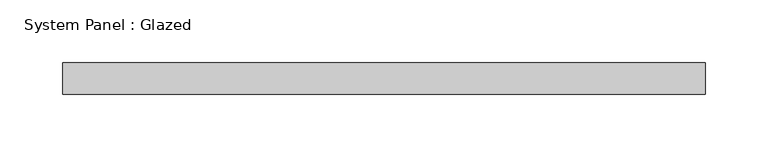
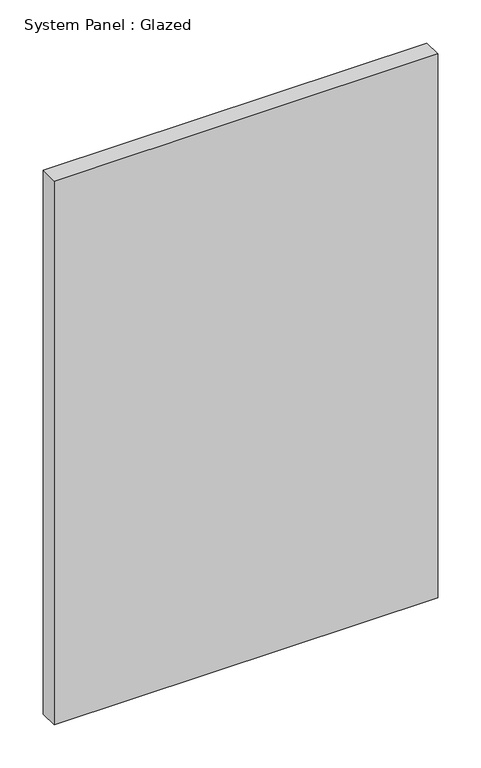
"""IFC4 building model written with IfcOpenShell, lengths in millimetres: plate geometry, System Panel : Glazed."""

from ifc_helpers import new_model, si_unit, origin, origin_with_axes, place, context, project, spatial, polyline, outline, extrude, source, transform, mapped, element, save


def system_panel_glazed_5a01df9a(model_context):
    return source(origin(), model_context, "Body", "SweptSolid", [
        extrude(outline(polyline([(257.175, 19.05), (-257.175, 19.05), (-257.175, 44.45), (257.175, 44.45), (257.175, 19.05)])), origin_with_axes(), (0.0, 0.0, 1.0), 770.6690025),
    ])


if __name__ == "__main__":
    model = new_model("IFC4")
    model_context = context("Model", 3, world=origin())
    ifc_project = project(units=[si_unit("LENGTHUNIT", "METRE", prefix="MILLI")], contexts=[model_context])
    site = spatial("IfcSite", under=ifc_project)
    building = spatial("IfcBuilding", under=site)
    placement = place(None, origin())
    system_panel_glazed_shape = system_panel_glazed_5a01df9a(model_context)
    element("IfcPlate", 1, ObjectType="System Panel : Glazed", at=placement, inside=building, context=model_context, shape_type="MappedRepresentation", body=[
        mapped(system_panel_glazed_shape, transform((0.0, 0.0, 0.0), x_axis=(1.0, 0.0, 0.0), y_axis=(0.0, 1.0, 0.0), z_axis=(0.0, 0.0, 1.0))),
    ])
    save(model, "model.ifc")
